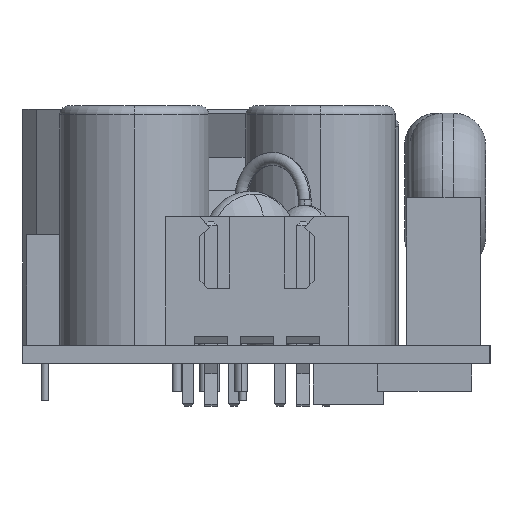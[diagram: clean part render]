
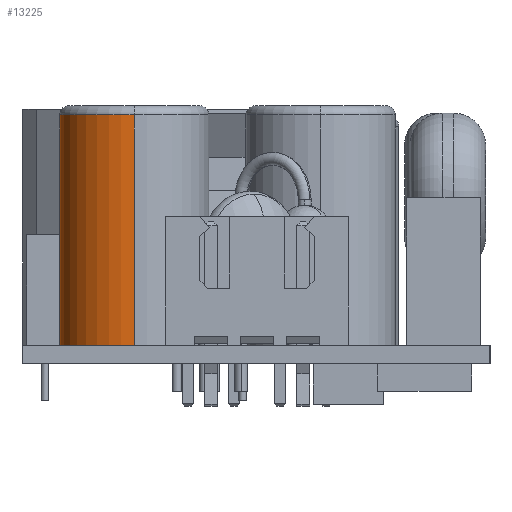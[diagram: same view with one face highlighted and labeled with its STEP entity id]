
A CAD part, left-side view. The second image highlights one B-rep face of the part: STEP entity #13225.
In plain terms, the highlighted cylindrical face has radius 4.05 mm (diameter 8.1 mm), a partial arc.
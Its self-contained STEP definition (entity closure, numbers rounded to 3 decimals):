
#173 = VERTEX_POINT ( 'NONE', #17308 ) ;
#1743 = EDGE_CURVE ( 'NONE', #3953, #15844, #10742, .T. ) ;
#2006 = DIRECTION ( 'NONE',  ( -1., 0., 0. ) ) ;
#2182 = DIRECTION ( 'NONE',  ( 0., 0., -1. ) ) ;
#2479 = EDGE_CURVE ( 'NONE', #173, #15539, #8861, .T. ) ;
#3953 = VERTEX_POINT ( 'NONE', #7878 ) ;
#4013 = DIRECTION ( 'NONE',  ( 0., 0., -1. ) ) ;
#4023 = AXIS2_PLACEMENT_3D ( 'NONE', #6760, #2182, #18994 ) ;
#5821 = DIRECTION ( 'NONE',  ( 0., 0., -1. ) ) ;
#6152 = DIRECTION ( 'NONE',  ( 0., 0., -1. ) ) ;
#6293 = EDGE_LOOP ( 'NONE', ( #18118, #9155, #18323, #10888 ) ) ;
#6760 = CARTESIAN_POINT ( 'NONE',  ( 55.052, 95.402, 12.5 ) ) ;
#7628 = CARTESIAN_POINT ( 'NONE',  ( 59.102, 95.402, 13. ) ) ;
#7878 = CARTESIAN_POINT ( 'NONE',  ( 51.002, 95.402, 12.5 ) ) ;
#8861 = CIRCLE ( 'NONE', #10773, 4.05 ) ;
#8920 = VECTOR ( 'NONE', #4013, 1000. ) ;
#9155 = ORIENTED_EDGE ( 'NONE', *, *, #14089, .T. ) ;
#9281 = CARTESIAN_POINT ( 'NONE',  ( 55.052, 95.402, 13. ) ) ;
#9458 = VECTOR ( 'NONE', #5821, 1000. ) ;
#10589 = FACE_OUTER_BOUND ( 'NONE', #6293, .T. ) ;
#10715 = AXIS2_PLACEMENT_3D ( 'NONE', #9281, #6152, #19606 ) ;
#10742 = CIRCLE ( 'NONE', #4023, 4.05 ) ;
#10773 = AXIS2_PLACEMENT_3D ( 'NONE', #16096, #11112, #2006 ) ;
#10888 = ORIENTED_EDGE ( 'NONE', *, *, #16726, .F. ) ;
#11112 = DIRECTION ( 'NONE',  ( 0., 0., 1. ) ) ;
#11931 = CARTESIAN_POINT ( 'NONE',  ( 51.002, 95.402, 13. ) ) ;
#12645 = CARTESIAN_POINT ( 'NONE',  ( 51.002, 95.402, 0. ) ) ;
#13225 = ADVANCED_FACE ( 'NONE', ( #10589 ), #15374, .T. ) ;
#14089 = EDGE_CURVE ( 'NONE', #15844, #173, #19471, .T. ) ;
#15374 = CYLINDRICAL_SURFACE ( 'NONE', #10715, 4.05 ) ;
#15539 = VERTEX_POINT ( 'NONE', #12645 ) ;
#15844 = VERTEX_POINT ( 'NONE', #16621 ) ;
#16096 = CARTESIAN_POINT ( 'NONE',  ( 55.052, 95.402, 0. ) ) ;
#16621 = CARTESIAN_POINT ( 'NONE',  ( 59.102, 95.402, 12.5 ) ) ;
#16726 = EDGE_CURVE ( 'NONE', #3953, #15539, #17750, .T. ) ;
#17308 = CARTESIAN_POINT ( 'NONE',  ( 59.102, 95.402, 0. ) ) ;
#17750 = LINE ( 'NONE', #11931, #8920 ) ;
#18118 = ORIENTED_EDGE ( 'NONE', *, *, #1743, .T. ) ;
#18323 = ORIENTED_EDGE ( 'NONE', *, *, #2479, .T. ) ;
#18994 = DIRECTION ( 'NONE',  ( 1., 0., 0. ) ) ;
#19471 = LINE ( 'NONE', #7628, #9458 ) ;
#19606 = DIRECTION ( 'NONE',  ( -1., 0., 0. ) ) ;
